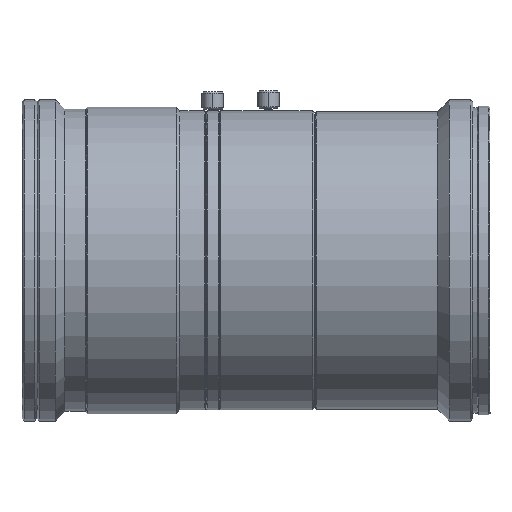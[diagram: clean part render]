
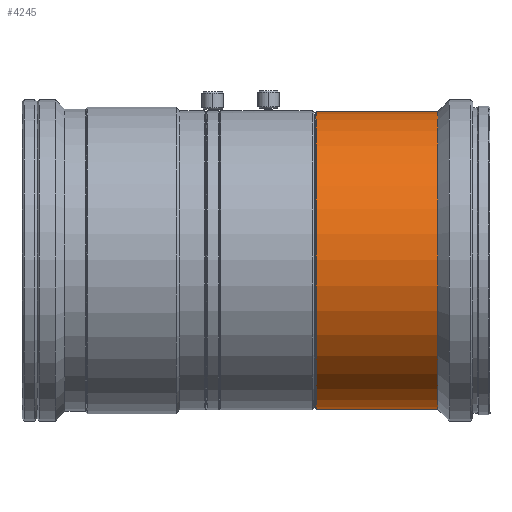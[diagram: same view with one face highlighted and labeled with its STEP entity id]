
A CAD part, top view. The second image highlights one B-rep face of the part: STEP entity #4245.
In plain terms, the highlighted cylindrical face has radius 34.75 mm (diameter 69.5 mm), a partial arc.
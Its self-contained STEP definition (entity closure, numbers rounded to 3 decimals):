
#50 = LINE ( 'NONE', #2009, #3593 ) ;
#168 = AXIS2_PLACEMENT_3D ( 'NONE', #276, #3376, #718 ) ;
#195 = VECTOR ( 'NONE', #3579, 1000. ) ;
#276 = CARTESIAN_POINT ( 'NONE',  ( 22.36, 0., 0. ) ) ;
#476 = EDGE_LOOP ( 'NONE', ( #1460, #499, #1941, #2025 ) ) ;
#499 = ORIENTED_EDGE ( 'NONE', *, *, #4611, .T. ) ;
#500 = CARTESIAN_POINT ( 'NONE',  ( -5.94, 34.75, 0. ) ) ;
#718 = DIRECTION ( 'NONE',  ( 0., -1., 0. ) ) ;
#1027 = DIRECTION ( 'NONE',  ( -1., 0., 0. ) ) ;
#1250 = CYLINDRICAL_SURFACE ( 'NONE', #1601, 34.75 ) ;
#1319 = DIRECTION ( 'NONE',  ( -1., 0., 0. ) ) ;
#1419 = DIRECTION ( 'NONE',  ( -1., 0., 0. ) ) ;
#1432 = VERTEX_POINT ( 'NONE', #2818 ) ;
#1460 = ORIENTED_EDGE ( 'NONE', *, *, #4905, .T. ) ;
#1516 = LINE ( 'NONE', #4035, #195 ) ;
#1601 = AXIS2_PLACEMENT_3D ( 'NONE', #4073, #1419, #1875 ) ;
#1875 = DIRECTION ( 'NONE',  ( 0., -1., 0. ) ) ;
#1941 = ORIENTED_EDGE ( 'NONE', *, *, #3313, .F. ) ;
#2009 = CARTESIAN_POINT ( 'NONE',  ( -54.54, -34.75, 0. ) ) ;
#2025 = ORIENTED_EDGE ( 'NONE', *, *, #5093, .F. ) ;
#2235 = VERTEX_POINT ( 'NONE', #500 ) ;
#2405 = AXIS2_PLACEMENT_3D ( 'NONE', #3991, #1319, #4434 ) ;
#2719 = FACE_OUTER_BOUND ( 'NONE', #476, .T. ) ;
#2818 = CARTESIAN_POINT ( 'NONE',  ( -5.94, -34.75, 0. ) ) ;
#2958 = CARTESIAN_POINT ( 'NONE',  ( 22.36, 34.75, 0. ) ) ;
#3113 = VERTEX_POINT ( 'NONE', #2958 ) ;
#3313 = EDGE_CURVE ( 'NONE', #1432, #2235, #3498, .T. ) ;
#3373 = CARTESIAN_POINT ( 'NONE',  ( 22.36, -34.75, 0. ) ) ;
#3376 = DIRECTION ( 'NONE',  ( -1., 0., 0. ) ) ;
#3498 = CIRCLE ( 'NONE', #2405, 34.75 ) ;
#3579 = DIRECTION ( 'NONE',  ( -1., 0., 0. ) ) ;
#3593 = VECTOR ( 'NONE', #1027, 1000. ) ;
#3991 = CARTESIAN_POINT ( 'NONE',  ( -5.94, 0., 0. ) ) ;
#4035 = CARTESIAN_POINT ( 'NONE',  ( -54.54, 34.75, 0. ) ) ;
#4073 = CARTESIAN_POINT ( 'NONE',  ( -54.54, 0., 0. ) ) ;
#4245 = ADVANCED_FACE ( 'NONE', ( #2719 ), #1250, .T. ) ;
#4297 = CIRCLE ( 'NONE', #168, 34.75 ) ;
#4434 = DIRECTION ( 'NONE',  ( 0., -1., 0. ) ) ;
#4611 = EDGE_CURVE ( 'NONE', #3113, #2235, #1516, .T. ) ;
#4905 = EDGE_CURVE ( 'NONE', #5659, #3113, #4297, .T. ) ;
#5093 = EDGE_CURVE ( 'NONE', #5659, #1432, #50, .T. ) ;
#5659 = VERTEX_POINT ( 'NONE', #3373 ) ;
